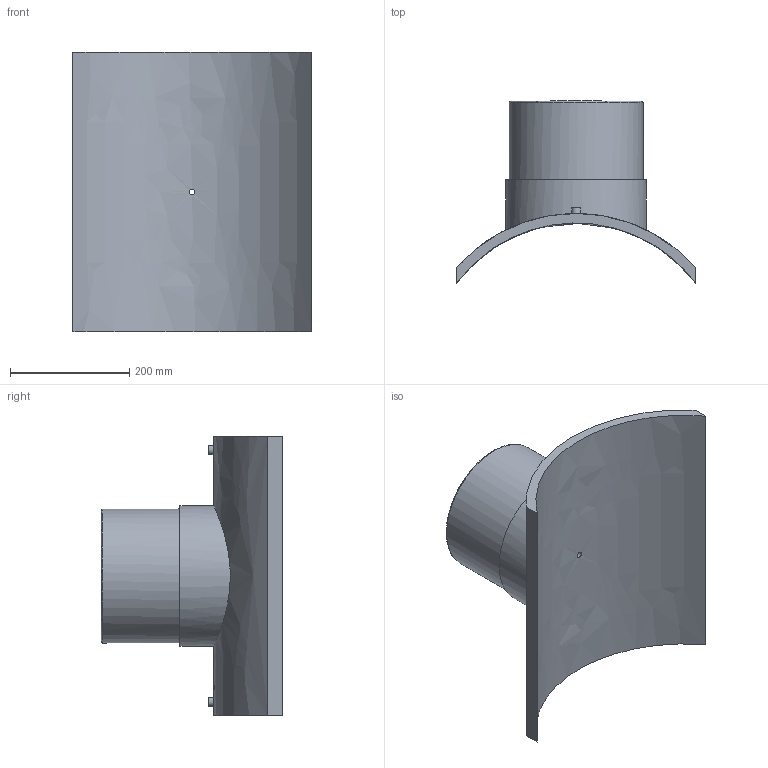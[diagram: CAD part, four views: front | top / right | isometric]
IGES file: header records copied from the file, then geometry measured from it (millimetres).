
Global section: file name: 495803500225T; native system: Autodesk Inventor 2019; preprocessor: unknown; author: KIM; date: 20240404.115155; units: millimetre
Bounding box: 400 x 305 x 470 mm (x, y, z)
Volume: 6587832.9 mm3; surface area: 734149.6 mm2
Topology: 1 solids, 1 shells, 29 faces, 60 edges, 43 vertices
Faces by surface type: bspline 29
